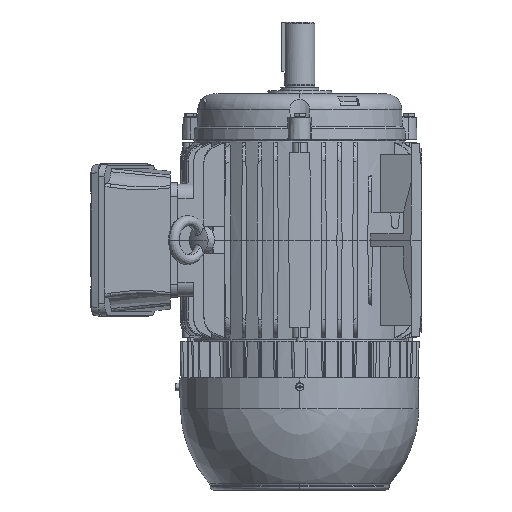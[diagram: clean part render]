
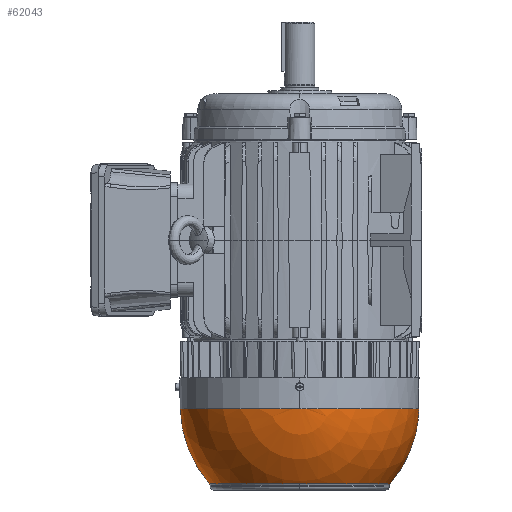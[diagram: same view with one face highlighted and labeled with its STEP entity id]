
A CAD part, left-side view. The second image highlights one B-rep face of the part: STEP entity #62043.
In plain terms, the highlighted spherical face has radius 109.545 mm.
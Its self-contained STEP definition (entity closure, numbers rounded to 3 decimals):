
#5566 = DIRECTION ( 'NONE',  ( 0., 0., 1. ) ) ;
#5627 = CARTESIAN_POINT ( 'NONE',  ( -82.833, 0., -223.234 ) ) ;
#6046 = ORIENTED_EDGE ( 'NONE', *, *, #33581, .T. ) ;
#7128 = CIRCLE ( 'NONE', #61713, 11.444 ) ;
#7657 = CARTESIAN_POINT ( 'NONE',  ( 0., 0., -151.55 ) ) ;
#9378 = DIRECTION ( 'NONE',  ( 0., 1., 0. ) ) ;
#10423 = AXIS2_PLACEMENT_3D ( 'NONE', #96074, #13860, #5566 ) ;
#11175 = CIRCLE ( 'NONE', #36756, 82.833 ) ;
#11950 = DIRECTION ( 'NONE',  ( -1., 0., 0. ) ) ;
#13327 = CIRCLE ( 'NONE', #85552, 109.507 ) ;
#13860 = DIRECTION ( 'NONE',  ( -1., 0., 0. ) ) ;
#15605 = CIRCLE ( 'NONE', #68694, 109.545 ) ;
#18912 = EDGE_CURVE ( 'NONE', #105843, #50973, #73219, .T. ) ;
#23550 = DIRECTION ( 'NONE',  ( 0., 1., 0. ) ) ;
#23764 = AXIS2_PLACEMENT_3D ( 'NONE', #7657, #72969, #23550 ) ;
#24121 = VERTEX_POINT ( 'NONE', #59368 ) ;
#26961 = DIRECTION ( 'NONE',  ( -1., 0., 0. ) ) ;
#27155 = CARTESIAN_POINT ( 'NONE',  ( 0., 82.833, -223.234 ) ) ;
#32715 = VERTEX_POINT ( 'NONE', #40235 ) ;
#33076 = VERTEX_POINT ( 'NONE', #62935 ) ;
#33391 = VERTEX_POINT ( 'NONE', #64900 ) ;
#33581 = EDGE_CURVE ( 'NONE', #32715, #71479, #69508, .T. ) ;
#36756 = AXIS2_PLACEMENT_3D ( 'NONE', #53853, #62483, #11950 ) ;
#38903 = ORIENTED_EDGE ( 'NONE', *, *, #18912, .F. ) ;
#39898 = EDGE_CURVE ( 'NONE', #24121, #32715, #7128, .T. ) ;
#40235 = CARTESIAN_POINT ( 'NONE',  ( -11.079, -108.945, -154.418 ) ) ;
#43369 = CARTESIAN_POINT ( 'NONE',  ( 0., 0., -154.418 ) ) ;
#43633 = AXIS2_PLACEMENT_3D ( 'NONE', #74863, #91882, #100075 ) ;
#45439 = EDGE_CURVE ( 'NONE', #71479, #33076, #13327, .T. ) ;
#49567 = EDGE_CURVE ( 'NONE', #24121, #33391, #15605, .T. ) ;
#50561 = DIRECTION ( 'NONE',  ( 1., 0., 0. ) ) ;
#50973 = VERTEX_POINT ( 'NONE', #27155 ) ;
#51423 = ORIENTED_EDGE ( 'NONE', *, *, #39898, .T. ) ;
#53853 = CARTESIAN_POINT ( 'NONE',  ( 0., 0., -223.234 ) ) ;
#59368 = CARTESIAN_POINT ( 'NONE',  ( 0., -108.945, -162.994 ) ) ;
#59529 = EDGE_CURVE ( 'NONE', #33391, #105843, #11175, .T. ) ;
#61713 = AXIS2_PLACEMENT_3D ( 'NONE', #97107, #105017, #97448 ) ;
#62020 = SPHERICAL_SURFACE ( 'NONE', #23764, 109.545 ) ;
#62043 = ADVANCED_FACE ( 'NONE', ( #96828 ), #62020, .T. ) ;
#62138 = ORIENTED_EDGE ( 'NONE', *, *, #88145, .T. ) ;
#62483 = DIRECTION ( 'NONE',  ( 0., 0., -1. ) ) ;
#62935 = CARTESIAN_POINT ( 'NONE',  ( 0., 109.507, -154.418 ) ) ;
#64900 = CARTESIAN_POINT ( 'NONE',  ( 0., -82.833, -223.234 ) ) ;
#68694 = AXIS2_PLACEMENT_3D ( 'NONE', #83730, #50561, #9378 ) ;
#69508 = CIRCLE ( 'NONE', #70398, 109.507 ) ;
#70186 = EDGE_LOOP ( 'NONE', ( #70652, #51423, #6046, #88263, #62138, #38903, #71429 ) ) ;
#70398 = AXIS2_PLACEMENT_3D ( 'NONE', #76361, #76718, #26961 ) ;
#70652 = ORIENTED_EDGE ( 'NONE', *, *, #49567, .F. ) ;
#71429 = ORIENTED_EDGE ( 'NONE', *, *, #59529, .F. ) ;
#71479 = VERTEX_POINT ( 'NONE', #102369 ) ;
#72969 = DIRECTION ( 'NONE',  ( 1., 0., 0. ) ) ;
#73219 = CIRCLE ( 'NONE', #43633, 82.833 ) ;
#74863 = CARTESIAN_POINT ( 'NONE',  ( 0., 0., -223.234 ) ) ;
#76361 = CARTESIAN_POINT ( 'NONE',  ( 0., 0., -154.418 ) ) ;
#76718 = DIRECTION ( 'NONE',  ( 0., 0., -1. ) ) ;
#83730 = CARTESIAN_POINT ( 'NONE',  ( 0., 0., -151.55 ) ) ;
#84750 = CIRCLE ( 'NONE', #10423, 109.545 ) ;
#85552 = AXIS2_PLACEMENT_3D ( 'NONE', #43369, #100692, #101062 ) ;
#88145 = EDGE_CURVE ( 'NONE', #33076, #50973, #84750, .T. ) ;
#88263 = ORIENTED_EDGE ( 'NONE', *, *, #45439, .T. ) ;
#91882 = DIRECTION ( 'NONE',  ( 0., 0., -1. ) ) ;
#96074 = CARTESIAN_POINT ( 'NONE',  ( 0., 0., -151.55 ) ) ;
#96828 = FACE_OUTER_BOUND ( 'NONE', #70186, .T. ) ;
#97107 = CARTESIAN_POINT ( 'NONE',  ( 0., -108.945, -151.55 ) ) ;
#97448 = DIRECTION ( 'NONE',  ( -1., 0., 0. ) ) ;
#100075 = DIRECTION ( 'NONE',  ( -1., 0., 0. ) ) ;
#100692 = DIRECTION ( 'NONE',  ( 0., 0., -1. ) ) ;
#101062 = DIRECTION ( 'NONE',  ( -1., 0., 0. ) ) ;
#102369 = CARTESIAN_POINT ( 'NONE',  ( -109.507, 0., -154.418 ) ) ;
#105017 = DIRECTION ( 'NONE',  ( 0., 1., 0. ) ) ;
#105843 = VERTEX_POINT ( 'NONE', #5627 ) ;
